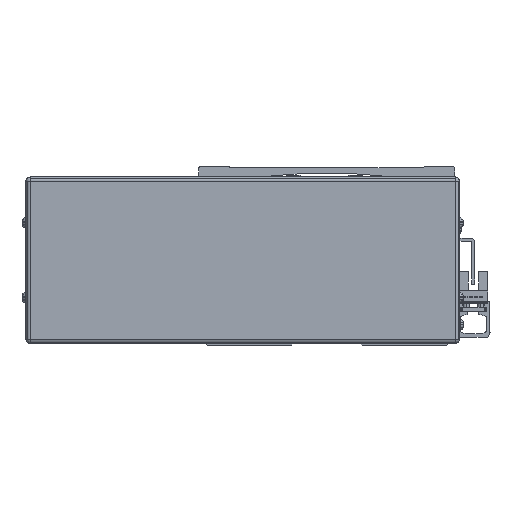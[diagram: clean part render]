
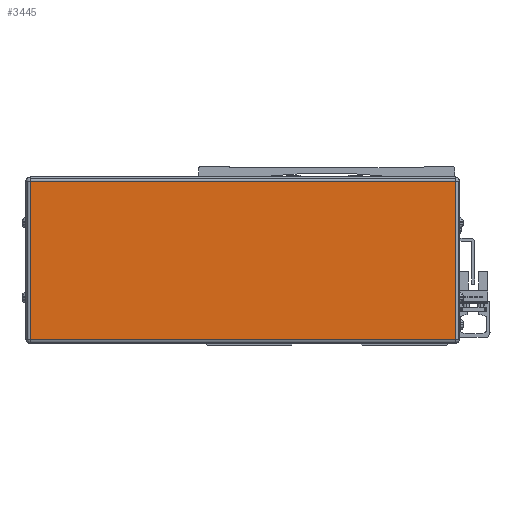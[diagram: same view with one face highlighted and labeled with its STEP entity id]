
A CAD part, front view. The second image highlights one B-rep face of the part: STEP entity #3445.
In plain terms, the highlighted planar face has unit normal (0, -1, 0).
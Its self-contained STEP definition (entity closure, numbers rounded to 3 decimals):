
#3445=ADVANCED_FACE('',(#8785),#8786,.F.);
#8785=FACE_OUTER_BOUND('',#16811,.T.);
#8786=PLANE('',#16812);
#16811=EDGE_LOOP('',(#27312,#27313,#27314,#27315));
#16812=AXIS2_PLACEMENT_3D('',#27316,#27317,#27318);
#27312=ORIENTED_EDGE('',*,*,#48218,.T.);
#27313=ORIENTED_EDGE('',*,*,#48219,.T.);
#27314=ORIENTED_EDGE('',*,*,#48220,.T.);
#27315=ORIENTED_EDGE('',*,*,#48221,.T.);
#27316=CARTESIAN_POINT('',(-340.5,-88.778,-8.));
#27317=DIRECTION('',(0.,1.0,0.));
#27318=DIRECTION('',(-1.0,0.,0.));
#48218=EDGE_CURVE('',#58307,#58308,#58309,.T.);
#48219=EDGE_CURVE('',#58308,#58310,#58311,.T.);
#48220=EDGE_CURVE('',#58310,#58312,#58313,.T.);
#48221=EDGE_CURVE('',#58312,#58307,#58314,.T.);
#58307=VERTEX_POINT('',#72411);
#58308=VERTEX_POINT('',#72412);
#58309=LINE('',#72413,#72414);
#58310=VERTEX_POINT('',#72415);
#58311=LINE('',#72416,#72417);
#58312=VERTEX_POINT('',#72418);
#58313=LINE('',#72419,#72420);
#58314=LINE('',#72421,#72422);
#72411=CARTESIAN_POINT('',(-442.7,-88.778,30.));
#72412=CARTESIAN_POINT('',(-442.7,-88.778,-46.));
#72413=CARTESIAN_POINT('',(-442.7,-88.778,-8.));
#72414=VECTOR('',#88580,10.0);
#72415=CARTESIAN_POINT('',(-238.3,-88.778,-46.));
#72416=CARTESIAN_POINT('',(-340.5,-88.778,-46.));
#72417=VECTOR('',#88581,10.0);
#72418=CARTESIAN_POINT('',(-238.3,-88.778,30.));
#72419=CARTESIAN_POINT('',(-238.3,-88.778,-8.));
#72420=VECTOR('',#88582,10.0);
#72421=CARTESIAN_POINT('',(-340.5,-88.778,30.));
#72422=VECTOR('',#88583,10.0);
#88580=DIRECTION('',(0.0,0.,-1.0));
#88581=DIRECTION('',(1.0,0.,0.));
#88582=DIRECTION('',(0.0,0.,1.0));
#88583=DIRECTION('',(-1.0,0.,0.));
